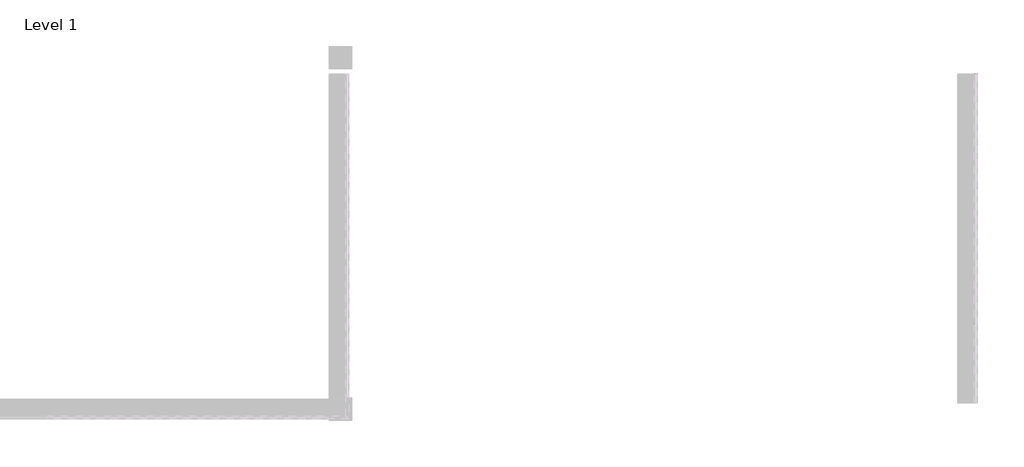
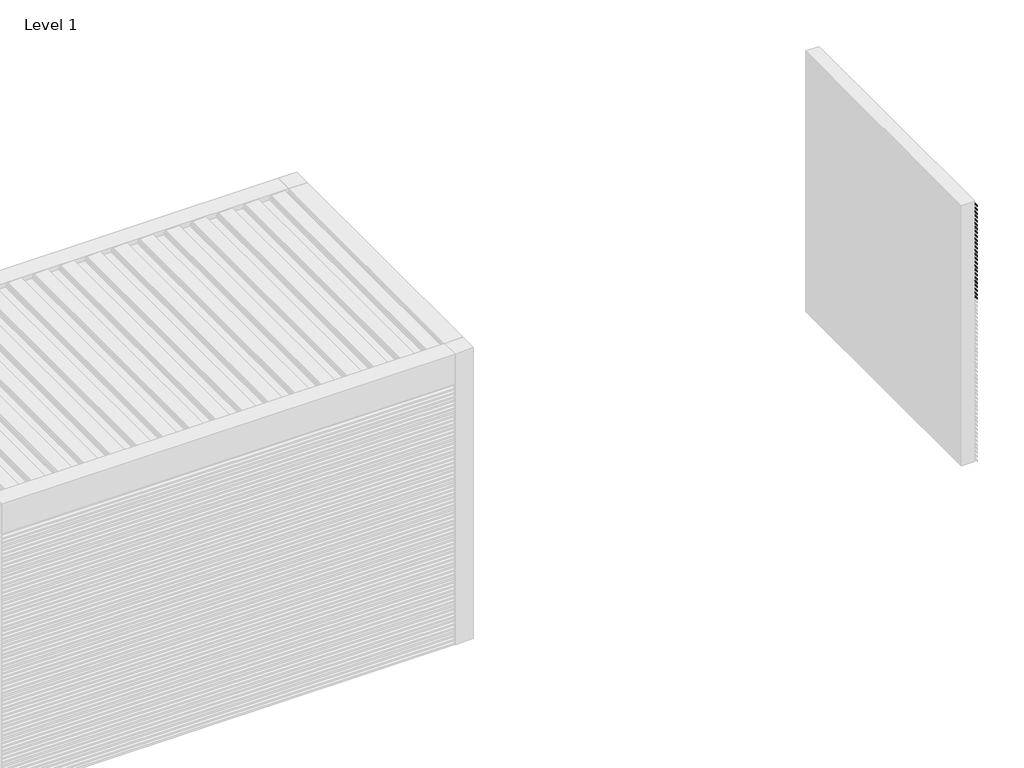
# One storey, part 60 of 69: 56 proxies.
"""IFC4 building model written with IfcOpenShell, lengths in millimetres."""

from ifc_helpers import new_model, si_unit, frame, origin, place, context, project, spatial, polyline, outline, extrude, faceted_brep, element, save

model = new_model("IFC4")

# Units and contexts
model_context = context("Model", 3, world=origin())
ifc_project = project(units=[si_unit("LENGTHUNIT", "METRE", prefix="MILLI")], contexts=[model_context])

# Site, building, storey
site = spatial("IfcSite", under=ifc_project)
building = spatial("IfcBuilding", under=site)
storey = spatial("IfcBuildingStorey", under=building, Name="Level 1", Elevation=0.0)

# Proxies
placement = place(None, origin())
element("IfcBuildingElementProxy", 1, Name="Wall Sweeps", at=placement, inside=storey, context=model_context, shape_type="SweptSolid", body=[
    extrude(outline(polyline([(2207.1, 215155.4900207), (2218.1562577, 215136.3400207), (2231.1, 215136.3400207), (2231.1, 215135.0900207), (2217.4345698, 215135.0900207), (2206.3782281, 215154.2400207), (2194.3216933, 215154.2400207), (2193.6, 215155.4900207), (2207.1, 215155.4900207)])), frame((0.0, 39638.6636399, 0.0), z_axis=(0.0, 1.0, 0.0), x_axis=(0.0, 0.0, 1.0)), (0.0, 0.0, 1.0), 2200.0),
])
element("IfcBuildingElementProxy", 2, Name="Wall Sweeps", at=placement, inside=storey, context=model_context, shape_type="SweptSolid", body=[
    extrude(outline(polyline([(2173.8, 215155.4900207), (2184.8562577, 215136.3400207), (2197.8, 215136.3400207), (2197.8, 215135.0900207), (2184.1345698, 215135.0900207), (2173.0782281, 215154.2400207), (2161.0216933, 215154.2400207), (2160.3, 215155.4900207), (2173.8, 215155.4900207)])), frame((0.0, 39638.6636399, 0.0), z_axis=(0.0, 1.0, 0.0), x_axis=(0.0, 0.0, 1.0)), (0.0, 0.0, 1.0), 2200.0),
])
element("IfcBuildingElementProxy", 3, Name="Wall Sweeps", at=placement, inside=storey, context=model_context, shape_type="SweptSolid", body=[
    extrude(outline(polyline([(2140.5, 215155.4900207), (2151.5562577, 215136.3400207), (2164.5, 215136.3400207), (2164.5, 215135.0900207), (2150.8345698, 215135.0900207), (2139.7782281, 215154.2400207), (2127.7216933, 215154.2400207), (2127.0, 215155.4900207), (2140.5, 215155.4900207)])), frame((0.0, 39638.6636399, 0.0), z_axis=(0.0, 1.0, 0.0), x_axis=(0.0, 0.0, 1.0)), (0.0, 0.0, 1.0), 2200.0),
])
element("IfcBuildingElementProxy", 4, Name="Wall Sweeps", at=placement, inside=storey, context=model_context, shape_type="SweptSolid", body=[
    extrude(outline(polyline([(2107.2, 215155.4900207), (2118.2562577, 215136.3400207), (2131.2, 215136.3400207), (2131.2, 215135.0900207), (2117.5345698, 215135.0900207), (2106.4782281, 215154.2400207), (2094.4216933, 215154.2400207), (2093.7, 215155.4900207), (2107.2, 215155.4900207)])), frame((0.0, 39638.6636399, 0.0), z_axis=(0.0, 1.0, 0.0), x_axis=(0.0, 0.0, 1.0)), (0.0, 0.0, 1.0), 2200.0),
])
element("IfcBuildingElementProxy", 5, Name="Wall Sweeps", at=placement, inside=storey, context=model_context, shape_type="SweptSolid", body=[
    extrude(outline(polyline([(2073.9, 215155.4900207), (2084.9562577, 215136.3400207), (2097.9, 215136.3400207), (2097.9, 215135.0900207), (2084.2345698, 215135.0900207), (2073.1782281, 215154.2400207), (2061.1216933, 215154.2400207), (2060.4, 215155.4900207), (2073.9, 215155.4900207)])), frame((0.0, 39638.6636399, 0.0), z_axis=(0.0, 1.0, 0.0), x_axis=(0.0, 0.0, 1.0)), (0.0, 0.0, 1.0), 2200.0),
])
element("IfcBuildingElementProxy", 6, Name="Wall Sweeps", at=placement, inside=storey, context=model_context, shape_type="SweptSolid", body=[
    extrude(outline(polyline([(2040.6, 215155.4900207), (2051.6562577, 215136.3400207), (2064.6, 215136.3400207), (2064.6, 215135.0900207), (2050.9345698, 215135.0900207), (2039.8782281, 215154.2400207), (2027.8216933, 215154.2400207), (2027.1, 215155.4900207), (2040.6, 215155.4900207)])), frame((0.0, 39638.6636399, 0.0), z_axis=(0.0, 1.0, 0.0), x_axis=(0.0, 0.0, 1.0)), (0.0, 0.0, 1.0), 2200.0),
])
element("IfcBuildingElementProxy", 7, Name="Wall Sweeps", at=placement, inside=storey, context=model_context, shape_type="SweptSolid", body=[
    extrude(outline(polyline([(2007.3, 215155.4900207), (2018.3562577, 215136.3400207), (2031.3, 215136.3400207), (2031.3, 215135.0900207), (2017.6345698, 215135.0900207), (2006.5782281, 215154.2400207), (1994.5216933, 215154.2400207), (1993.8, 215155.4900207), (2007.3, 215155.4900207)])), frame((0.0, 39638.6636399, 0.0), z_axis=(0.0, 1.0, 0.0), x_axis=(0.0, 0.0, 1.0)), (0.0, 0.0, 1.0), 2200.0),
])
element("IfcBuildingElementProxy", 8, Name="Wall Sweeps", at=placement, inside=storey, context=model_context, shape_type="SweptSolid", body=[
    extrude(outline(polyline([(1974.0, 215155.4900207), (1985.0562577, 215136.3400207), (1998.0, 215136.3400207), (1998.0, 215135.0900207), (1984.3345698, 215135.0900207), (1973.2782281, 215154.2400207), (1961.2216933, 215154.2400207), (1960.5, 215155.4900207), (1974.0, 215155.4900207)])), frame((0.0, 39638.6636399, 0.0), z_axis=(0.0, 1.0, 0.0), x_axis=(0.0, 0.0, 1.0)), (0.0, 0.0, 1.0), 2200.0),
])
element("IfcBuildingElementProxy", 9, Name="Wall Sweeps", at=placement, inside=storey, context=model_context, shape_type="SweptSolid", body=[
    extrude(outline(polyline([(1940.7, 215155.4900207), (1951.7562577, 215136.3400207), (1964.7, 215136.3400207), (1964.7, 215135.0900207), (1951.0345698, 215135.0900207), (1939.9782281, 215154.2400207), (1927.9216933, 215154.2400207), (1927.2, 215155.4900207), (1940.7, 215155.4900207)])), frame((0.0, 39638.6636399, 0.0), z_axis=(0.0, 1.0, 0.0), x_axis=(0.0, 0.0, 1.0)), (0.0, 0.0, 1.0), 2200.0),
])
element("IfcBuildingElementProxy", 10, Name="Wall Sweeps", at=placement, inside=storey, context=model_context, shape_type="SweptSolid", body=[
    extrude(outline(polyline([(1907.4, 215155.4900207), (1918.4562577, 215136.3400207), (1931.4, 215136.3400207), (1931.4, 215135.0900207), (1917.7345698, 215135.0900207), (1906.6782281, 215154.2400207), (1894.6216933, 215154.2400207), (1893.9, 215155.4900207), (1907.4, 215155.4900207)])), frame((0.0, 39638.6636399, 0.0), z_axis=(0.0, 1.0, 0.0), x_axis=(0.0, 0.0, 1.0)), (0.0, 0.0, 1.0), 2200.0),
])
element("IfcBuildingElementProxy", 11, Name="Wall Sweeps", at=placement, inside=storey, context=model_context, shape_type="SweptSolid", body=[
    extrude(outline(polyline([(1874.1, 215155.4900207), (1885.1562577, 215136.3400207), (1898.1, 215136.3400207), (1898.1, 215135.0900207), (1884.4345698, 215135.0900207), (1873.3782281, 215154.2400207), (1861.3216933, 215154.2400207), (1860.6, 215155.4900207), (1874.1, 215155.4900207)])), frame((0.0, 39638.6636399, 0.0), z_axis=(0.0, 1.0, 0.0), x_axis=(0.0, 0.0, 1.0)), (0.0, 0.0, 1.0), 2200.0),
])
element("IfcBuildingElementProxy", 12, Name="Wall Sweeps", at=placement, inside=storey, context=model_context, shape_type="SweptSolid", body=[
    extrude(outline(polyline([(1840.8, 215155.4900207), (1851.8562577, 215136.3400207), (1864.8, 215136.3400207), (1864.8, 215135.0900207), (1851.1345698, 215135.0900207), (1840.0782281, 215154.2400207), (1828.0216933, 215154.2400207), (1827.3, 215155.4900207), (1840.8, 215155.4900207)])), frame((0.0, 39638.6636399, 0.0), z_axis=(0.0, 1.0, 0.0), x_axis=(0.0, 0.0, 1.0)), (0.0, 0.0, 1.0), 2200.0),
])
element("IfcBuildingElementProxy", 13, Name="Wall Sweeps", at=placement, inside=storey, context=model_context, shape_type="SweptSolid", body=[
    extrude(outline(polyline([(1807.5, 215155.4900207), (1818.5562577, 215136.3400207), (1831.5, 215136.3400207), (1831.5, 215135.0900207), (1817.8345698, 215135.0900207), (1806.7782281, 215154.2400207), (1794.7216933, 215154.2400207), (1794.0, 215155.4900207), (1807.5, 215155.4900207)])), frame((0.0, 39638.6636399, 0.0), z_axis=(0.0, 1.0, 0.0), x_axis=(0.0, 0.0, 1.0)), (0.0, 0.0, 1.0), 2200.0),
])
element("IfcBuildingElementProxy", 14, Name="Wall Sweeps", at=placement, inside=storey, context=model_context, shape_type="SweptSolid", body=[
    extrude(outline(polyline([(1774.2, 215155.4900207), (1785.2562577, 215136.3400207), (1798.2, 215136.3400207), (1798.2, 215135.0900207), (1784.5345698, 215135.0900207), (1773.4782281, 215154.2400207), (1761.4216933, 215154.2400207), (1760.7, 215155.4900207), (1774.2, 215155.4900207)])), frame((0.0, 39638.6636399, 0.0), z_axis=(0.0, 1.0, 0.0), x_axis=(0.0, 0.0, 1.0)), (0.0, 0.0, 1.0), 2200.0),
])
element("IfcBuildingElementProxy", 15, Name="Wall Sweeps", at=placement, inside=storey, context=model_context, shape_type="SweptSolid", body=[
    extrude(outline(polyline([(1740.9, 215155.4900207), (1751.9562577, 215136.3400207), (1764.9, 215136.3400207), (1764.9, 215135.0900207), (1751.2345698, 215135.0900207), (1740.1782281, 215154.2400207), (1728.1216933, 215154.2400207), (1727.4, 215155.4900207), (1740.9, 215155.4900207)])), frame((0.0, 39638.6636399, 0.0), z_axis=(0.0, 1.0, 0.0), x_axis=(0.0, 0.0, 1.0)), (0.0, 0.0, 1.0), 2200.0),
])
element("IfcBuildingElementProxy", 16, Name="Wall Sweeps", at=placement, inside=storey, context=model_context, shape_type="SweptSolid", body=[
    extrude(outline(polyline([(1707.6, 215155.4900207), (1718.6562577, 215136.3400207), (1731.6, 215136.3400207), (1731.6, 215135.0900207), (1717.9345698, 215135.0900207), (1706.8782281, 215154.2400207), (1694.8216933, 215154.2400207), (1694.1, 215155.4900207), (1707.6, 215155.4900207)])), frame((0.0, 39638.6636399, 0.0), z_axis=(0.0, 1.0, 0.0), x_axis=(0.0, 0.0, 1.0)), (0.0, 0.0, 1.0), 2200.0),
])
element("IfcBuildingElementProxy", 17, Name="Wall Sweeps", at=placement, inside=storey, context=model_context, shape_type="SweptSolid", body=[
    extrude(outline(polyline([(1674.3, 215155.4900207), (1685.3562577, 215136.3400207), (1698.3, 215136.3400207), (1698.3, 215135.0900207), (1684.6345698, 215135.0900207), (1673.5782281, 215154.2400207), (1661.5216933, 215154.2400207), (1660.8, 215155.4900207), (1674.3, 215155.4900207)])), frame((0.0, 39638.6636399, 0.0), z_axis=(0.0, 1.0, 0.0), x_axis=(0.0, 0.0, 1.0)), (0.0, 0.0, 1.0), 2200.0),
])
element("IfcBuildingElementProxy", 18, Name="Wall Sweeps", at=placement, inside=storey, context=model_context, shape_type="SweptSolid", body=[
    extrude(outline(polyline([(1641.0, 215155.4900207), (1652.0562577, 215136.3400207), (1665.0, 215136.3400207), (1665.0, 215135.0900207), (1651.3345698, 215135.0900207), (1640.2782281, 215154.2400207), (1628.2216933, 215154.2400207), (1627.5, 215155.4900207), (1641.0, 215155.4900207)])), frame((0.0, 39638.6636399, 0.0), z_axis=(0.0, 1.0, 0.0), x_axis=(0.0, 0.0, 1.0)), (0.0, 0.0, 1.0), 2200.0),
])
element("IfcBuildingElementProxy", 19, Name="Wall Sweeps", at=placement, inside=storey, context=model_context, shape_type="SweptSolid", body=[
    extrude(outline(polyline([(1607.7, 215155.4900207), (1618.7562577, 215136.3400207), (1631.7, 215136.3400207), (1631.7, 215135.0900207), (1618.0345698, 215135.0900207), (1606.9782281, 215154.2400207), (1594.9216933, 215154.2400207), (1594.2, 215155.4900207), (1607.7, 215155.4900207)])), frame((0.0, 39638.6636399, 0.0), z_axis=(0.0, 1.0, 0.0), x_axis=(0.0, 0.0, 1.0)), (0.0, 0.0, 1.0), 2200.0),
])
element("IfcBuildingElementProxy", 20, Name="Wall Sweeps", at=placement, inside=storey, context=model_context, shape_type="SweptSolid", body=[
    extrude(outline(polyline([(1574.4, 215155.4900207), (1585.4562577, 215136.3400207), (1598.4, 215136.3400207), (1598.4, 215135.0900207), (1584.7345698, 215135.0900207), (1573.6782281, 215154.2400207), (1561.6216933, 215154.2400207), (1560.9, 215155.4900207), (1574.4, 215155.4900207)])), frame((0.0, 39638.6636399, 0.0), z_axis=(0.0, 1.0, 0.0), x_axis=(0.0, 0.0, 1.0)), (0.0, 0.0, 1.0), 2200.0),
])
element("IfcBuildingElementProxy", 21, Name="Wall Sweeps", at=placement, inside=storey, context=model_context, shape_type="SweptSolid", body=[
    extrude(outline(polyline([(1541.1, 215155.4900207), (1552.1562577, 215136.3400207), (1565.1, 215136.3400207), (1565.1, 215135.0900207), (1551.4345698, 215135.0900207), (1540.3782281, 215154.2400207), (1528.3216933, 215154.2400207), (1527.6, 215155.4900207), (1541.1, 215155.4900207)])), frame((0.0, 39638.6636399, 0.0), z_axis=(0.0, 1.0, 0.0), x_axis=(0.0, 0.0, 1.0)), (0.0, 0.0, 1.0), 2200.0),
])
element("IfcBuildingElementProxy", 22, Name="Wall Sweeps", at=placement, inside=storey, context=model_context, shape_type="SweptSolid", body=[
    extrude(outline(polyline([(1507.8, 215155.4900207), (1518.8562577, 215136.3400207), (1531.8, 215136.3400207), (1531.8, 215135.0900207), (1518.1345698, 215135.0900207), (1507.0782281, 215154.2400207), (1495.0216933, 215154.2400207), (1494.3, 215155.4900207), (1507.8, 215155.4900207)])), frame((0.0, 39638.6636399, 0.0), z_axis=(0.0, 1.0, 0.0), x_axis=(0.0, 0.0, 1.0)), (0.0, 0.0, 1.0), 2200.0),
])
element("IfcBuildingElementProxy", 23, Name="Wall Sweeps", at=placement, inside=storey, context=model_context, shape_type="SweptSolid", body=[
    extrude(outline(polyline([(1474.5, 215155.4900207), (1485.5562577, 215136.3400207), (1498.5, 215136.3400207), (1498.5, 215135.0900207), (1484.8345698, 215135.0900207), (1473.7782281, 215154.2400207), (1461.7216933, 215154.2400207), (1461.0, 215155.4900207), (1474.5, 215155.4900207)])), frame((0.0, 39638.6636399, 0.0), z_axis=(0.0, 1.0, 0.0), x_axis=(0.0, 0.0, 1.0)), (0.0, 0.0, 1.0), 2200.0),
])
element("IfcBuildingElementProxy", 24, Name="Wall Sweeps", at=placement, inside=storey, context=model_context, shape_type="SweptSolid", body=[
    extrude(outline(polyline([(1441.2, 215155.4900207), (1452.2562577, 215136.3400207), (1465.2, 215136.3400207), (1465.2, 215135.0900207), (1451.5345698, 215135.0900207), (1440.4782281, 215154.2400207), (1428.4216933, 215154.2400207), (1427.7, 215155.4900207), (1441.2, 215155.4900207)])), frame((0.0, 39638.6636399, 0.0), z_axis=(0.0, 1.0, 0.0), x_axis=(0.0, 0.0, 1.0)), (0.0, 0.0, 1.0), 2200.0),
])
element("IfcBuildingElementProxy", 25, Name="Wall Sweeps", at=placement, inside=storey, context=model_context, shape_type="SweptSolid", body=[
    extrude(outline(polyline([(1407.9, 215155.4900207), (1418.9562577, 215136.3400207), (1431.9, 215136.3400207), (1431.9, 215135.0900207), (1418.2345698, 215135.0900207), (1407.1782281, 215154.2400207), (1395.1216933, 215154.2400207), (1394.4, 215155.4900207), (1407.9, 215155.4900207)])), frame((0.0, 39638.6636399, 0.0), z_axis=(0.0, 1.0, 0.0), x_axis=(0.0, 0.0, 1.0)), (0.0, 0.0, 1.0), 2200.0),
])
element("IfcBuildingElementProxy", 26, Name="Wall Sweeps", at=placement, inside=storey, context=model_context, shape_type="Brep", body=[
    faceted_brep([(210955.4900207, 41838.6636399, 1008.3), (210955.4900207, 41838.6636399, 994.8), (210954.2400207, 41838.6636399, 995.5216933), (210954.2400207, 41838.6636399, 1007.5782281), (210935.0900207, 41838.6636399, 1018.6345698), (210935.0900207, 41838.6636399, 1032.3), (210936.3400207, 41838.6636399, 1032.3), (210936.3400207, 41838.6636399, 1019.3562577), (210955.4900207, 39530.7593685, 1008.3), (210936.3400207, 39549.9093685, 1019.3562577), (210936.3400207, 39549.9093685, 1032.3), (210935.0900207, 39551.1593685, 1032.3), (210935.0900207, 39551.1593685, 1018.6345698), (210954.2400207, 39532.0093685, 1007.5782281), (210954.2400207, 39532.0093685, 995.5216933), (210955.4900207, 39530.7593685, 994.8)], [[[0, 1, 2, 3, 4, 5, 6, 7]], [[8, 9, 10, 11, 12, 13, 14, 15]], [[0, 7, 9, 8]], [[7, 6, 10, 9]], [[6, 5, 11, 10]], [[5, 4, 12, 11]], [[4, 3, 13, 12]], [[3, 2, 14, 13]], [[2, 1, 15, 14]], [[1, 0, 8, 15]]]),
])
element("IfcBuildingElementProxy", 27, Name="Wall Sweeps", at=placement, inside=storey, context=model_context, shape_type="Brep", body=[
    faceted_brep([(210955.4900207, 41838.6636399, 975.0), (210955.4900207, 41838.6636399, 961.5), (210954.2400207, 41838.6636399, 962.2216933), (210954.2400207, 41838.6636399, 974.2782281), (210935.0900207, 41838.6636399, 985.3345698), (210935.0900207, 41838.6636399, 999.0), (210936.3400207, 41838.6636399, 999.0), (210936.3400207, 41838.6636399, 986.0562577), (210955.4900207, 39530.7593685, 975.0), (210936.3400207, 39549.9093685, 986.0562577), (210936.3400207, 39549.9093685, 999.0), (210935.0900207, 39551.1593685, 999.0), (210935.0900207, 39551.1593685, 985.3345698), (210954.2400207, 39532.0093685, 974.2782281), (210954.2400207, 39532.0093685, 962.2216933), (210955.4900207, 39530.7593685, 961.5)], [[[0, 1, 2, 3, 4, 5, 6, 7]], [[8, 9, 10, 11, 12, 13, 14, 15]], [[0, 7, 9, 8]], [[7, 6, 10, 9]], [[6, 5, 11, 10]], [[5, 4, 12, 11]], [[4, 3, 13, 12]], [[3, 2, 14, 13]], [[2, 1, 15, 14]], [[1, 0, 8, 15]]]),
])
element("IfcBuildingElementProxy", 28, Name="Wall Sweeps", at=placement, inside=storey, context=model_context, shape_type="Brep", body=[
    faceted_brep([(210955.4900207, 41838.6636399, 941.7), (210955.4900207, 41838.6636399, 928.2), (210954.2400207, 41838.6636399, 928.9216933), (210954.2400207, 41838.6636399, 940.9782281), (210935.0900207, 41838.6636399, 952.0345698), (210935.0900207, 41838.6636399, 965.7), (210936.3400207, 41838.6636399, 965.7), (210936.3400207, 41838.6636399, 952.7562577), (210955.4900207, 39530.7593685, 941.7), (210936.3400207, 39549.9093685, 952.7562577), (210936.3400207, 39549.9093685, 965.7), (210935.0900207, 39551.1593685, 965.7), (210935.0900207, 39551.1593685, 952.0345698), (210954.2400207, 39532.0093685, 940.9782281), (210954.2400207, 39532.0093685, 928.9216933), (210955.4900207, 39530.7593685, 928.2)], [[[0, 1, 2, 3, 4, 5, 6, 7]], [[8, 9, 10, 11, 12, 13, 14, 15]], [[0, 7, 9, 8]], [[7, 6, 10, 9]], [[6, 5, 11, 10]], [[5, 4, 12, 11]], [[4, 3, 13, 12]], [[3, 2, 14, 13]], [[2, 1, 15, 14]], [[1, 0, 8, 15]]]),
])
element("IfcBuildingElementProxy", 29, Name="Wall Sweeps", at=placement, inside=storey, context=model_context, shape_type="Brep", body=[
    faceted_brep([(210955.4900207, 41838.6636399, 908.4), (210955.4900207, 41838.6636399, 894.9), (210954.2400207, 41838.6636399, 895.6216933), (210954.2400207, 41838.6636399, 907.6782281), (210935.0900207, 41838.6636399, 918.7345698), (210935.0900207, 41838.6636399, 932.4), (210936.3400207, 41838.6636399, 932.4), (210936.3400207, 41838.6636399, 919.4562577), (210955.4900207, 39530.7593685, 908.4), (210936.3400207, 39549.9093685, 919.4562577), (210936.3400207, 39549.9093685, 932.4), (210935.0900207, 39551.1593685, 932.4), (210935.0900207, 39551.1593685, 918.7345698), (210954.2400207, 39532.0093685, 907.6782281), (210954.2400207, 39532.0093685, 895.6216933), (210955.4900207, 39530.7593685, 894.9)], [[[0, 1, 2, 3, 4, 5, 6, 7]], [[8, 9, 10, 11, 12, 13, 14, 15]], [[0, 7, 9, 8]], [[7, 6, 10, 9]], [[6, 5, 11, 10]], [[5, 4, 12, 11]], [[4, 3, 13, 12]], [[3, 2, 14, 13]], [[2, 1, 15, 14]], [[1, 0, 8, 15]]]),
])
element("IfcBuildingElementProxy", 30, Name="Wall Sweeps", at=placement, inside=storey, context=model_context, shape_type="Brep", body=[
    faceted_brep([(210955.4900207, 41838.6636399, 875.1), (210955.4900207, 41838.6636399, 861.6), (210954.2400207, 41838.6636399, 862.3216933), (210954.2400207, 41838.6636399, 874.3782281), (210935.0900207, 41838.6636399, 885.4345698), (210935.0900207, 41838.6636399, 899.1), (210936.3400207, 41838.6636399, 899.1), (210936.3400207, 41838.6636399, 886.1562577), (210955.4900207, 39530.7593685, 875.1), (210936.3400207, 39549.9093685, 886.1562577), (210936.3400207, 39549.9093685, 899.1), (210935.0900207, 39551.1593685, 899.1), (210935.0900207, 39551.1593685, 885.4345698), (210954.2400207, 39532.0093685, 874.3782281), (210954.2400207, 39532.0093685, 862.3216933), (210955.4900207, 39530.7593685, 861.6)], [[[0, 1, 2, 3, 4, 5, 6, 7]], [[8, 9, 10, 11, 12, 13, 14, 15]], [[0, 7, 9, 8]], [[7, 6, 10, 9]], [[6, 5, 11, 10]], [[5, 4, 12, 11]], [[4, 3, 13, 12]], [[3, 2, 14, 13]], [[2, 1, 15, 14]], [[1, 0, 8, 15]]]),
])
element("IfcBuildingElementProxy", 31, Name="Wall Sweeps", at=placement, inside=storey, context=model_context, shape_type="Brep", body=[
    faceted_brep([(210955.4900207, 41838.6636399, 841.8), (210955.4900207, 41838.6636399, 828.3), (210954.2400207, 41838.6636399, 829.0216933), (210954.2400207, 41838.6636399, 841.0782281), (210935.0900207, 41838.6636399, 852.1345698), (210935.0900207, 41838.6636399, 865.8), (210936.3400207, 41838.6636399, 865.8), (210936.3400207, 41838.6636399, 852.8562577), (210955.4900207, 39530.7593685, 841.8), (210936.3400207, 39549.9093685, 852.8562577), (210936.3400207, 39549.9093685, 865.8), (210935.0900207, 39551.1593685, 865.8), (210935.0900207, 39551.1593685, 852.1345698), (210954.2400207, 39532.0093685, 841.0782281), (210954.2400207, 39532.0093685, 829.0216933), (210955.4900207, 39530.7593685, 828.3)], [[[0, 1, 2, 3, 4, 5, 6, 7]], [[8, 9, 10, 11, 12, 13, 14, 15]], [[0, 7, 9, 8]], [[7, 6, 10, 9]], [[6, 5, 11, 10]], [[5, 4, 12, 11]], [[4, 3, 13, 12]], [[3, 2, 14, 13]], [[2, 1, 15, 14]], [[1, 0, 8, 15]]]),
])
element("IfcBuildingElementProxy", 32, Name="Wall Sweeps", at=placement, inside=storey, context=model_context, shape_type="Brep", body=[
    faceted_brep([(210955.4900207, 41838.6636399, 808.5), (210955.4900207, 41838.6636399, 795.0), (210954.2400207, 41838.6636399, 795.7216933), (210954.2400207, 41838.6636399, 807.7782281), (210935.0900207, 41838.6636399, 818.8345698), (210935.0900207, 41838.6636399, 832.5), (210936.3400207, 41838.6636399, 832.5), (210936.3400207, 41838.6636399, 819.5562577), (210955.4900207, 39530.7593685, 808.5), (210936.3400207, 39549.9093685, 819.5562577), (210936.3400207, 39549.9093685, 832.5), (210935.0900207, 39551.1593685, 832.5), (210935.0900207, 39551.1593685, 818.8345698), (210954.2400207, 39532.0093685, 807.7782281), (210954.2400207, 39532.0093685, 795.7216933), (210955.4900207, 39530.7593685, 795.0)], [[[0, 1, 2, 3, 4, 5, 6, 7]], [[8, 9, 10, 11, 12, 13, 14, 15]], [[0, 7, 9, 8]], [[7, 6, 10, 9]], [[6, 5, 11, 10]], [[5, 4, 12, 11]], [[4, 3, 13, 12]], [[3, 2, 14, 13]], [[2, 1, 15, 14]], [[1, 0, 8, 15]]]),
])
element("IfcBuildingElementProxy", 33, Name="Wall Sweeps", at=placement, inside=storey, context=model_context, shape_type="Brep", body=[
    faceted_brep([(210955.4900207, 41838.6636399, 775.2), (210955.4900207, 41838.6636399, 761.7), (210954.2400207, 41838.6636399, 762.4216933), (210954.2400207, 41838.6636399, 774.4782281), (210935.0900207, 41838.6636399, 785.5345698), (210935.0900207, 41838.6636399, 799.2), (210936.3400207, 41838.6636399, 799.2), (210936.3400207, 41838.6636399, 786.2562577), (210955.4900207, 39530.7593685, 775.2), (210936.3400207, 39549.9093685, 786.2562577), (210936.3400207, 39549.9093685, 799.2), (210935.0900207, 39551.1593685, 799.2), (210935.0900207, 39551.1593685, 785.5345698), (210954.2400207, 39532.0093685, 774.4782281), (210954.2400207, 39532.0093685, 762.4216933), (210955.4900207, 39530.7593685, 761.7)], [[[0, 1, 2, 3, 4, 5, 6, 7]], [[8, 9, 10, 11, 12, 13, 14, 15]], [[0, 7, 9, 8]], [[7, 6, 10, 9]], [[6, 5, 11, 10]], [[5, 4, 12, 11]], [[4, 3, 13, 12]], [[3, 2, 14, 13]], [[2, 1, 15, 14]], [[1, 0, 8, 15]]]),
])
element("IfcBuildingElementProxy", 34, Name="Wall Sweeps", at=placement, inside=storey, context=model_context, shape_type="Brep", body=[
    faceted_brep([(210955.4900207, 41838.6636399, 741.9), (210955.4900207, 41838.6636399, 728.4), (210954.2400207, 41838.6636399, 729.1216933), (210954.2400207, 41838.6636399, 741.1782281), (210935.0900207, 41838.6636399, 752.2345698), (210935.0900207, 41838.6636399, 765.9), (210936.3400207, 41838.6636399, 765.9), (210936.3400207, 41838.6636399, 752.9562577), (210955.4900207, 39530.7593685, 741.9), (210936.3400207, 39549.9093685, 752.9562577), (210936.3400207, 39549.9093685, 765.9), (210935.0900207, 39551.1593685, 765.9), (210935.0900207, 39551.1593685, 752.2345698), (210954.2400207, 39532.0093685, 741.1782281), (210954.2400207, 39532.0093685, 729.1216933), (210955.4900207, 39530.7593685, 728.4)], [[[0, 1, 2, 3, 4, 5, 6, 7]], [[8, 9, 10, 11, 12, 13, 14, 15]], [[0, 7, 9, 8]], [[7, 6, 10, 9]], [[6, 5, 11, 10]], [[5, 4, 12, 11]], [[4, 3, 13, 12]], [[3, 2, 14, 13]], [[2, 1, 15, 14]], [[1, 0, 8, 15]]]),
])
element("IfcBuildingElementProxy", 35, Name="Wall Sweeps", at=placement, inside=storey, context=model_context, shape_type="Brep", body=[
    faceted_brep([(210955.4900207, 41838.6636399, 708.6), (210955.4900207, 41838.6636399, 695.1), (210954.2400207, 41838.6636399, 695.8216933), (210954.2400207, 41838.6636399, 707.8782281), (210935.0900207, 41838.6636399, 718.9345698), (210935.0900207, 41838.6636399, 732.6), (210936.3400207, 41838.6636399, 732.6), (210936.3400207, 41838.6636399, 719.6562577), (210955.4900207, 39530.7593685, 708.6), (210936.3400207, 39549.9093685, 719.6562577), (210936.3400207, 39549.9093685, 732.6), (210935.0900207, 39551.1593685, 732.6), (210935.0900207, 39551.1593685, 718.9345698), (210954.2400207, 39532.0093685, 707.8782281), (210954.2400207, 39532.0093685, 695.8216933), (210955.4900207, 39530.7593685, 695.1)], [[[0, 1, 2, 3, 4, 5, 6, 7]], [[8, 9, 10, 11, 12, 13, 14, 15]], [[0, 7, 9, 8]], [[7, 6, 10, 9]], [[6, 5, 11, 10]], [[5, 4, 12, 11]], [[4, 3, 13, 12]], [[3, 2, 14, 13]], [[2, 1, 15, 14]], [[1, 0, 8, 15]]]),
])
element("IfcBuildingElementProxy", 36, Name="Wall Sweeps", at=placement, inside=storey, context=model_context, shape_type="Brep", body=[
    faceted_brep([(210955.4900207, 41838.6636399, 675.3), (210955.4900207, 41838.6636399, 661.8), (210954.2400207, 41838.6636399, 662.5216933), (210954.2400207, 41838.6636399, 674.5782281), (210935.0900207, 41838.6636399, 685.6345698), (210935.0900207, 41838.6636399, 699.3), (210936.3400207, 41838.6636399, 699.3), (210936.3400207, 41838.6636399, 686.3562577), (210955.4900207, 39530.7593685, 675.3), (210936.3400207, 39549.9093685, 686.3562577), (210936.3400207, 39549.9093685, 699.3), (210935.0900207, 39551.1593685, 699.3), (210935.0900207, 39551.1593685, 685.6345698), (210954.2400207, 39532.0093685, 674.5782281), (210954.2400207, 39532.0093685, 662.5216933), (210955.4900207, 39530.7593685, 661.8)], [[[0, 1, 2, 3, 4, 5, 6, 7]], [[8, 9, 10, 11, 12, 13, 14, 15]], [[0, 7, 9, 8]], [[7, 6, 10, 9]], [[6, 5, 11, 10]], [[5, 4, 12, 11]], [[4, 3, 13, 12]], [[3, 2, 14, 13]], [[2, 1, 15, 14]], [[1, 0, 8, 15]]]),
])
element("IfcBuildingElementProxy", 37, Name="Wall Sweeps", at=placement, inside=storey, context=model_context, shape_type="Brep", body=[
    faceted_brep([(210955.4900207, 41838.6636399, 642.0), (210955.4900207, 41838.6636399, 628.5), (210954.2400207, 41838.6636399, 629.2216933), (210954.2400207, 41838.6636399, 641.2782281), (210935.0900207, 41838.6636399, 652.3345698), (210935.0900207, 41838.6636399, 666.0), (210936.3400207, 41838.6636399, 666.0), (210936.3400207, 41838.6636399, 653.0562577), (210955.4900207, 39530.7593685, 642.0), (210936.3400207, 39549.9093685, 653.0562577), (210936.3400207, 39549.9093685, 666.0), (210935.0900207, 39551.1593685, 666.0), (210935.0900207, 39551.1593685, 652.3345698), (210954.2400207, 39532.0093685, 641.2782281), (210954.2400207, 39532.0093685, 629.2216933), (210955.4900207, 39530.7593685, 628.5)], [[[0, 1, 2, 3, 4, 5, 6, 7]], [[8, 9, 10, 11, 12, 13, 14, 15]], [[0, 7, 9, 8]], [[7, 6, 10, 9]], [[6, 5, 11, 10]], [[5, 4, 12, 11]], [[4, 3, 13, 12]], [[3, 2, 14, 13]], [[2, 1, 15, 14]], [[1, 0, 8, 15]]]),
])
element("IfcBuildingElementProxy", 38, Name="Wall Sweeps", at=placement, inside=storey, context=model_context, shape_type="Brep", body=[
    faceted_brep([(210955.4900207, 41838.6636399, 608.7), (210955.4900207, 41838.6636399, 595.2), (210954.2400207, 41838.6636399, 595.9216933), (210954.2400207, 41838.6636399, 607.9782281), (210935.0900207, 41838.6636399, 619.0345698), (210935.0900207, 41838.6636399, 632.7), (210936.3400207, 41838.6636399, 632.7), (210936.3400207, 41838.6636399, 619.7562577), (210955.4900207, 39530.7593685, 608.7), (210936.3400207, 39549.9093685, 619.7562577), (210936.3400207, 39549.9093685, 632.7), (210935.0900207, 39551.1593685, 632.7), (210935.0900207, 39551.1593685, 619.0345698), (210954.2400207, 39532.0093685, 607.9782281), (210954.2400207, 39532.0093685, 595.9216933), (210955.4900207, 39530.7593685, 595.2)], [[[0, 1, 2, 3, 4, 5, 6, 7]], [[8, 9, 10, 11, 12, 13, 14, 15]], [[0, 7, 9, 8]], [[7, 6, 10, 9]], [[6, 5, 11, 10]], [[5, 4, 12, 11]], [[4, 3, 13, 12]], [[3, 2, 14, 13]], [[2, 1, 15, 14]], [[1, 0, 8, 15]]]),
])
element("IfcBuildingElementProxy", 39, Name="Wall Sweeps", at=placement, inside=storey, context=model_context, shape_type="Brep", body=[
    faceted_brep([(210955.4900207, 41838.6636399, 575.4), (210955.4900207, 41838.6636399, 561.9), (210954.2400207, 41838.6636399, 562.6216933), (210954.2400207, 41838.6636399, 574.6782281), (210935.0900207, 41838.6636399, 585.7345698), (210935.0900207, 41838.6636399, 599.4), (210936.3400207, 41838.6636399, 599.4), (210936.3400207, 41838.6636399, 586.4562577), (210955.4900207, 39530.7593685, 575.4), (210936.3400207, 39549.9093685, 586.4562577), (210936.3400207, 39549.9093685, 599.4), (210935.0900207, 39551.1593685, 599.4), (210935.0900207, 39551.1593685, 585.7345698), (210954.2400207, 39532.0093685, 574.6782281), (210954.2400207, 39532.0093685, 562.6216933), (210955.4900207, 39530.7593685, 561.9)], [[[0, 1, 2, 3, 4, 5, 6, 7]], [[8, 9, 10, 11, 12, 13, 14, 15]], [[0, 7, 9, 8]], [[7, 6, 10, 9]], [[6, 5, 11, 10]], [[5, 4, 12, 11]], [[4, 3, 13, 12]], [[3, 2, 14, 13]], [[2, 1, 15, 14]], [[1, 0, 8, 15]]]),
])
element("IfcBuildingElementProxy", 40, Name="Wall Sweeps", at=placement, inside=storey, context=model_context, shape_type="Brep", body=[
    faceted_brep([(210955.4900207, 41838.6636399, 542.1), (210955.4900207, 41838.6636399, 528.6), (210954.2400207, 41838.6636399, 529.3216933), (210954.2400207, 41838.6636399, 541.3782281), (210935.0900207, 41838.6636399, 552.4345698), (210935.0900207, 41838.6636399, 566.1), (210936.3400207, 41838.6636399, 566.1), (210936.3400207, 41838.6636399, 553.1562577), (210955.4900207, 39530.7593685, 542.1), (210936.3400207, 39549.9093685, 553.1562577), (210936.3400207, 39549.9093685, 566.1), (210935.0900207, 39551.1593685, 566.1), (210935.0900207, 39551.1593685, 552.4345698), (210954.2400207, 39532.0093685, 541.3782281), (210954.2400207, 39532.0093685, 529.3216933), (210955.4900207, 39530.7593685, 528.6)], [[[0, 1, 2, 3, 4, 5, 6, 7]], [[8, 9, 10, 11, 12, 13, 14, 15]], [[0, 7, 9, 8]], [[7, 6, 10, 9]], [[6, 5, 11, 10]], [[5, 4, 12, 11]], [[4, 3, 13, 12]], [[3, 2, 14, 13]], [[2, 1, 15, 14]], [[1, 0, 8, 15]]]),
])
element("IfcBuildingElementProxy", 41, Name="Wall Sweeps", at=placement, inside=storey, context=model_context, shape_type="Brep", body=[
    faceted_brep([(210955.4900207, 41838.6636399, 508.8), (210955.4900207, 41838.6636399, 495.3), (210954.2400207, 41838.6636399, 496.0216933), (210954.2400207, 41838.6636399, 508.0782281), (210935.0900207, 41838.6636399, 519.1345698), (210935.0900207, 41838.6636399, 532.8), (210936.3400207, 41838.6636399, 532.8), (210936.3400207, 41838.6636399, 519.8562577), (210955.4900207, 39530.7593685, 508.8), (210936.3400207, 39549.9093685, 519.8562577), (210936.3400207, 39549.9093685, 532.8), (210935.0900207, 39551.1593685, 532.8), (210935.0900207, 39551.1593685, 519.1345698), (210954.2400207, 39532.0093685, 508.0782281), (210954.2400207, 39532.0093685, 496.0216933), (210955.4900207, 39530.7593685, 495.3)], [[[0, 1, 2, 3, 4, 5, 6, 7]], [[8, 9, 10, 11, 12, 13, 14, 15]], [[0, 7, 9, 8]], [[7, 6, 10, 9]], [[6, 5, 11, 10]], [[5, 4, 12, 11]], [[4, 3, 13, 12]], [[3, 2, 14, 13]], [[2, 1, 15, 14]], [[1, 0, 8, 15]]]),
])
element("IfcBuildingElementProxy", 42, Name="Wall Sweeps", at=placement, inside=storey, context=model_context, shape_type="Brep", body=[
    faceted_brep([(210955.4900207, 41838.6636399, 475.5), (210955.4900207, 41838.6636399, 462.0), (210954.2400207, 41838.6636399, 462.7216933), (210954.2400207, 41838.6636399, 474.7782281), (210935.0900207, 41838.6636399, 485.8345698), (210935.0900207, 41838.6636399, 499.5), (210936.3400207, 41838.6636399, 499.5), (210936.3400207, 41838.6636399, 486.5562577), (210955.4900207, 39530.7593685, 475.5), (210936.3400207, 39549.9093685, 486.5562577), (210936.3400207, 39549.9093685, 499.5), (210935.0900207, 39551.1593685, 499.5), (210935.0900207, 39551.1593685, 485.8345698), (210954.2400207, 39532.0093685, 474.7782281), (210954.2400207, 39532.0093685, 462.7216933), (210955.4900207, 39530.7593685, 462.0)], [[[0, 1, 2, 3, 4, 5, 6, 7]], [[8, 9, 10, 11, 12, 13, 14, 15]], [[0, 7, 9, 8]], [[7, 6, 10, 9]], [[6, 5, 11, 10]], [[5, 4, 12, 11]], [[4, 3, 13, 12]], [[3, 2, 14, 13]], [[2, 1, 15, 14]], [[1, 0, 8, 15]]]),
])
element("IfcBuildingElementProxy", 43, Name="Wall Sweeps", at=placement, inside=storey, context=model_context, shape_type="Brep", body=[
    faceted_brep([(210955.4900207, 41838.6636399, 442.2), (210955.4900207, 41838.6636399, 428.7), (210954.2400207, 41838.6636399, 429.4216933), (210954.2400207, 41838.6636399, 441.4782281), (210935.0900207, 41838.6636399, 452.5345698), (210935.0900207, 41838.6636399, 466.2), (210936.3400207, 41838.6636399, 466.2), (210936.3400207, 41838.6636399, 453.2562577), (210955.4900207, 39530.7593685, 442.2), (210936.3400207, 39549.9093685, 453.2562577), (210936.3400207, 39549.9093685, 466.2), (210935.0900207, 39551.1593685, 466.2), (210935.0900207, 39551.1593685, 452.5345698), (210954.2400207, 39532.0093685, 441.4782281), (210954.2400207, 39532.0093685, 429.4216933), (210955.4900207, 39530.7593685, 428.7)], [[[0, 1, 2, 3, 4, 5, 6, 7]], [[8, 9, 10, 11, 12, 13, 14, 15]], [[0, 7, 9, 8]], [[7, 6, 10, 9]], [[6, 5, 11, 10]], [[5, 4, 12, 11]], [[4, 3, 13, 12]], [[3, 2, 14, 13]], [[2, 1, 15, 14]], [[1, 0, 8, 15]]]),
])
element("IfcBuildingElementProxy", 44, Name="Wall Sweeps", at=placement, inside=storey, context=model_context, shape_type="Brep", body=[
    faceted_brep([(210955.4900207, 41838.6636399, 408.9), (210955.4900207, 41838.6636399, 395.4), (210954.2400207, 41838.6636399, 396.1216933), (210954.2400207, 41838.6636399, 408.1782281), (210935.0900207, 41838.6636399, 419.2345698), (210935.0900207, 41838.6636399, 432.9), (210936.3400207, 41838.6636399, 432.9), (210936.3400207, 41838.6636399, 419.9562577), (210955.4900207, 39530.7593685, 408.9), (210936.3400207, 39549.9093685, 419.9562577), (210936.3400207, 39549.9093685, 432.9), (210935.0900207, 39551.1593685, 432.9), (210935.0900207, 39551.1593685, 419.2345698), (210954.2400207, 39532.0093685, 408.1782281), (210954.2400207, 39532.0093685, 396.1216933), (210955.4900207, 39530.7593685, 395.4)], [[[0, 1, 2, 3, 4, 5, 6, 7]], [[8, 9, 10, 11, 12, 13, 14, 15]], [[0, 7, 9, 8]], [[7, 6, 10, 9]], [[6, 5, 11, 10]], [[5, 4, 12, 11]], [[4, 3, 13, 12]], [[3, 2, 14, 13]], [[2, 1, 15, 14]], [[1, 0, 8, 15]]]),
])
element("IfcBuildingElementProxy", 45, Name="Wall Sweeps", at=placement, inside=storey, context=model_context, shape_type="Brep", body=[
    faceted_brep([(210955.4900207, 41838.6636399, 375.6), (210955.4900207, 41838.6636399, 362.1), (210954.2400207, 41838.6636399, 362.8216933), (210954.2400207, 41838.6636399, 374.8782281), (210935.0900207, 41838.6636399, 385.9345698), (210935.0900207, 41838.6636399, 399.6), (210936.3400207, 41838.6636399, 399.6), (210936.3400207, 41838.6636399, 386.6562577), (210955.4900207, 39530.7593685, 375.6), (210936.3400207, 39549.9093685, 386.6562577), (210936.3400207, 39549.9093685, 399.6), (210935.0900207, 39551.1593685, 399.6), (210935.0900207, 39551.1593685, 385.9345698), (210954.2400207, 39532.0093685, 374.8782281), (210954.2400207, 39532.0093685, 362.8216933), (210955.4900207, 39530.7593685, 362.1)], [[[0, 1, 2, 3, 4, 5, 6, 7]], [[8, 9, 10, 11, 12, 13, 14, 15]], [[0, 7, 9, 8]], [[7, 6, 10, 9]], [[6, 5, 11, 10]], [[5, 4, 12, 11]], [[4, 3, 13, 12]], [[3, 2, 14, 13]], [[2, 1, 15, 14]], [[1, 0, 8, 15]]]),
])
element("IfcBuildingElementProxy", 46, Name="Wall Sweeps", at=placement, inside=storey, context=model_context, shape_type="Brep", body=[
    faceted_brep([(210955.4900207, 41838.6636399, 342.3), (210955.4900207, 41838.6636399, 328.8), (210954.2400207, 41838.6636399, 329.5216933), (210954.2400207, 41838.6636399, 341.5782281), (210935.0900207, 41838.6636399, 352.6345698), (210935.0900207, 41838.6636399, 366.3), (210936.3400207, 41838.6636399, 366.3), (210936.3400207, 41838.6636399, 353.3562577), (210955.4900207, 39530.7593685, 342.3), (210936.3400207, 39549.9093685, 353.3562577), (210936.3400207, 39549.9093685, 366.3), (210935.0900207, 39551.1593685, 366.3), (210935.0900207, 39551.1593685, 352.6345698), (210954.2400207, 39532.0093685, 341.5782281), (210954.2400207, 39532.0093685, 329.5216933), (210955.4900207, 39530.7593685, 328.8)], [[[0, 1, 2, 3, 4, 5, 6, 7]], [[8, 9, 10, 11, 12, 13, 14, 15]], [[0, 7, 9, 8]], [[7, 6, 10, 9]], [[6, 5, 11, 10]], [[5, 4, 12, 11]], [[4, 3, 13, 12]], [[3, 2, 14, 13]], [[2, 1, 15, 14]], [[1, 0, 8, 15]]]),
])
element("IfcBuildingElementProxy", 47, Name="Wall Sweeps", at=placement, inside=storey, context=model_context, shape_type="Brep", body=[
    faceted_brep([(210955.4900207, 41838.6636399, 309.0), (210955.4900207, 41838.6636399, 295.5), (210954.2400207, 41838.6636399, 296.2216933), (210954.2400207, 41838.6636399, 308.2782281), (210935.0900207, 41838.6636399, 319.3345698), (210935.0900207, 41838.6636399, 333.0), (210936.3400207, 41838.6636399, 333.0), (210936.3400207, 41838.6636399, 320.0562577), (210955.4900207, 39530.7593685, 309.0), (210936.3400207, 39549.9093685, 320.0562577), (210936.3400207, 39549.9093685, 333.0), (210935.0900207, 39551.1593685, 333.0), (210935.0900207, 39551.1593685, 319.3345698), (210954.2400207, 39532.0093685, 308.2782281), (210954.2400207, 39532.0093685, 296.2216933), (210955.4900207, 39530.7593685, 295.5)], [[[0, 1, 2, 3, 4, 5, 6, 7]], [[8, 9, 10, 11, 12, 13, 14, 15]], [[0, 7, 9, 8]], [[7, 6, 10, 9]], [[6, 5, 11, 10]], [[5, 4, 12, 11]], [[4, 3, 13, 12]], [[3, 2, 14, 13]], [[2, 1, 15, 14]], [[1, 0, 8, 15]]]),
])
element("IfcBuildingElementProxy", 48, Name="Wall Sweeps", at=placement, inside=storey, context=model_context, shape_type="Brep", body=[
    faceted_brep([(210955.4900207, 41838.6636399, 275.7), (210955.4900207, 41838.6636399, 262.2), (210954.2400207, 41838.6636399, 262.9216933), (210954.2400207, 41838.6636399, 274.9782281), (210935.0900207, 41838.6636399, 286.0345698), (210935.0900207, 41838.6636399, 299.7), (210936.3400207, 41838.6636399, 299.7), (210936.3400207, 41838.6636399, 286.7562577), (210955.4900207, 39530.7593685, 275.7), (210936.3400207, 39549.9093685, 286.7562577), (210936.3400207, 39549.9093685, 299.7), (210935.0900207, 39551.1593685, 299.7), (210935.0900207, 39551.1593685, 286.0345698), (210954.2400207, 39532.0093685, 274.9782281), (210954.2400207, 39532.0093685, 262.9216933), (210955.4900207, 39530.7593685, 262.2)], [[[0, 1, 2, 3, 4, 5, 6, 7]], [[8, 9, 10, 11, 12, 13, 14, 15]], [[0, 7, 9, 8]], [[7, 6, 10, 9]], [[6, 5, 11, 10]], [[5, 4, 12, 11]], [[4, 3, 13, 12]], [[3, 2, 14, 13]], [[2, 1, 15, 14]], [[1, 0, 8, 15]]]),
])
element("IfcBuildingElementProxy", 49, Name="Wall Sweeps", at=placement, inside=storey, context=model_context, shape_type="Brep", body=[
    faceted_brep([(210955.4900207, 41838.6636399, 242.4), (210955.4900207, 41838.6636399, 228.9), (210954.2400207, 41838.6636399, 229.6216933), (210954.2400207, 41838.6636399, 241.6782281), (210935.0900207, 41838.6636399, 252.7345698), (210935.0900207, 41838.6636399, 266.4), (210936.3400207, 41838.6636399, 266.4), (210936.3400207, 41838.6636399, 253.4562577), (210955.4900207, 39530.7593685, 242.4), (210936.3400207, 39549.9093685, 253.4562577), (210936.3400207, 39549.9093685, 266.4), (210935.0900207, 39551.1593685, 266.4), (210935.0900207, 39551.1593685, 252.7345698), (210954.2400207, 39532.0093685, 241.6782281), (210954.2400207, 39532.0093685, 229.6216933), (210955.4900207, 39530.7593685, 228.9)], [[[0, 1, 2, 3, 4, 5, 6, 7]], [[8, 9, 10, 11, 12, 13, 14, 15]], [[0, 7, 9, 8]], [[7, 6, 10, 9]], [[6, 5, 11, 10]], [[5, 4, 12, 11]], [[4, 3, 13, 12]], [[3, 2, 14, 13]], [[2, 1, 15, 14]], [[1, 0, 8, 15]]]),
])
element("IfcBuildingElementProxy", 50, Name="Wall Sweeps", at=placement, inside=storey, context=model_context, shape_type="Brep", body=[
    faceted_brep([(210955.4900207, 41838.6636399, 209.1), (210955.4900207, 41838.6636399, 195.6), (210954.2400207, 41838.6636399, 196.3216933), (210954.2400207, 41838.6636399, 208.3782281), (210935.0900207, 41838.6636399, 219.4345698), (210935.0900207, 41838.6636399, 233.1), (210936.3400207, 41838.6636399, 233.1), (210936.3400207, 41838.6636399, 220.1562577), (210955.4900207, 39530.7593685, 209.1), (210936.3400207, 39549.9093685, 220.1562577), (210936.3400207, 39549.9093685, 233.1), (210935.0900207, 39551.1593685, 233.1), (210935.0900207, 39551.1593685, 219.4345698), (210954.2400207, 39532.0093685, 208.3782281), (210954.2400207, 39532.0093685, 196.3216933), (210955.4900207, 39530.7593685, 195.6)], [[[0, 1, 2, 3, 4, 5, 6, 7]], [[8, 9, 10, 11, 12, 13, 14, 15]], [[0, 7, 9, 8]], [[7, 6, 10, 9]], [[6, 5, 11, 10]], [[5, 4, 12, 11]], [[4, 3, 13, 12]], [[3, 2, 14, 13]], [[2, 1, 15, 14]], [[1, 0, 8, 15]]]),
])
element("IfcBuildingElementProxy", 51, Name="Wall Sweeps", at=placement, inside=storey, context=model_context, shape_type="Brep", body=[
    faceted_brep([(210955.4900207, 41838.6636399, 175.8), (210955.4900207, 41838.6636399, 162.3), (210954.2400207, 41838.6636399, 163.0216933), (210954.2400207, 41838.6636399, 175.0782281), (210935.0900207, 41838.6636399, 186.1345698), (210935.0900207, 41838.6636399, 199.8), (210936.3400207, 41838.6636399, 199.8), (210936.3400207, 41838.6636399, 186.8562577), (210955.4900207, 39530.7593685, 175.8), (210936.3400207, 39549.9093685, 186.8562577), (210936.3400207, 39549.9093685, 199.8), (210935.0900207, 39551.1593685, 199.8), (210935.0900207, 39551.1593685, 186.1345698), (210954.2400207, 39532.0093685, 175.0782281), (210954.2400207, 39532.0093685, 163.0216933), (210955.4900207, 39530.7593685, 162.3)], [[[0, 1, 2, 3, 4, 5, 6, 7]], [[8, 9, 10, 11, 12, 13, 14, 15]], [[0, 7, 9, 8]], [[7, 6, 10, 9]], [[6, 5, 11, 10]], [[5, 4, 12, 11]], [[4, 3, 13, 12]], [[3, 2, 14, 13]], [[2, 1, 15, 14]], [[1, 0, 8, 15]]]),
])
element("IfcBuildingElementProxy", 52, Name="Wall Sweeps", at=placement, inside=storey, context=model_context, shape_type="Brep", body=[
    faceted_brep([(210955.4900207, 41838.6636399, 142.5), (210955.4900207, 41838.6636399, 129.0), (210954.2400207, 41838.6636399, 129.7216933), (210954.2400207, 41838.6636399, 141.7782281), (210935.0900207, 41838.6636399, 152.8345698), (210935.0900207, 41838.6636399, 166.5), (210936.3400207, 41838.6636399, 166.5), (210936.3400207, 41838.6636399, 153.5562577), (210955.4900207, 39530.7593685, 142.5), (210936.3400207, 39549.9093685, 153.5562577), (210936.3400207, 39549.9093685, 166.5), (210935.0900207, 39551.1593685, 166.5), (210935.0900207, 39551.1593685, 152.8345698), (210954.2400207, 39532.0093685, 141.7782281), (210954.2400207, 39532.0093685, 129.7216933), (210955.4900207, 39530.7593685, 129.0)], [[[0, 1, 2, 3, 4, 5, 6, 7]], [[8, 9, 10, 11, 12, 13, 14, 15]], [[0, 7, 9, 8]], [[7, 6, 10, 9]], [[6, 5, 11, 10]], [[5, 4, 12, 11]], [[4, 3, 13, 12]], [[3, 2, 14, 13]], [[2, 1, 15, 14]], [[1, 0, 8, 15]]]),
])
element("IfcBuildingElementProxy", 53, Name="Wall Sweeps", at=placement, inside=storey, context=model_context, shape_type="Brep", body=[
    faceted_brep([(210955.4900207, 41838.6636399, 109.2), (210955.4900207, 41838.6636399, 95.7), (210954.2400207, 41838.6636399, 96.4216933), (210954.2400207, 41838.6636399, 108.4782281), (210935.0900207, 41838.6636399, 119.5345698), (210935.0900207, 41838.6636399, 133.2), (210936.3400207, 41838.6636399, 133.2), (210936.3400207, 41838.6636399, 120.2562577), (210955.4900207, 39530.7593685, 109.2), (210936.3400207, 39549.9093685, 120.2562577), (210936.3400207, 39549.9093685, 133.2), (210935.0900207, 39551.1593685, 133.2), (210935.0900207, 39551.1593685, 119.5345698), (210954.2400207, 39532.0093685, 108.4782281), (210954.2400207, 39532.0093685, 96.4216933), (210955.4900207, 39530.7593685, 95.7)], [[[0, 1, 2, 3, 4, 5, 6, 7]], [[8, 9, 10, 11, 12, 13, 14, 15]], [[0, 7, 9, 8]], [[7, 6, 10, 9]], [[6, 5, 11, 10]], [[5, 4, 12, 11]], [[4, 3, 13, 12]], [[3, 2, 14, 13]], [[2, 1, 15, 14]], [[1, 0, 8, 15]]]),
])
element("IfcBuildingElementProxy", 54, Name="Wall Sweeps", at=placement, inside=storey, context=model_context, shape_type="Brep", body=[
    faceted_brep([(210955.4900207, 41838.6636399, 75.9), (210955.4900207, 41838.6636399, 62.4), (210954.2400207, 41838.6636399, 63.1216933), (210954.2400207, 41838.6636399, 75.1782281), (210935.0900207, 41838.6636399, 86.2345698), (210935.0900207, 41838.6636399, 99.9), (210936.3400207, 41838.6636399, 99.9), (210936.3400207, 41838.6636399, 86.9562577), (210955.4900207, 39530.7593685, 75.9), (210936.3400207, 39549.9093685, 86.9562577), (210936.3400207, 39549.9093685, 99.9), (210935.0900207, 39551.1593685, 99.9), (210935.0900207, 39551.1593685, 86.2345698), (210954.2400207, 39532.0093685, 75.1782281), (210954.2400207, 39532.0093685, 63.1216933), (210955.4900207, 39530.7593685, 62.4)], [[[0, 1, 2, 3, 4, 5, 6, 7]], [[8, 9, 10, 11, 12, 13, 14, 15]], [[0, 7, 9, 8]], [[7, 6, 10, 9]], [[6, 5, 11, 10]], [[5, 4, 12, 11]], [[4, 3, 13, 12]], [[3, 2, 14, 13]], [[2, 1, 15, 14]], [[1, 0, 8, 15]]]),
])
element("IfcBuildingElementProxy", 55, Name="Wall Sweeps", at=placement, inside=storey, context=model_context, shape_type="Brep", body=[
    faceted_brep([(210955.4900207, 41838.6636399, 42.6), (210955.4900207, 41838.6636399, 29.1), (210954.2400207, 41838.6636399, 29.8216933), (210954.2400207, 41838.6636399, 41.8782281), (210935.0900207, 41838.6636399, 52.9345698), (210935.0900207, 41838.6636399, 66.6), (210936.3400207, 41838.6636399, 66.6), (210936.3400207, 41838.6636399, 53.6562577), (210955.4900207, 39530.7593685, 42.6), (210936.3400207, 39549.9093685, 53.6562577), (210936.3400207, 39549.9093685, 66.6), (210935.0900207, 39551.1593685, 66.6), (210935.0900207, 39551.1593685, 52.9345698), (210954.2400207, 39532.0093685, 41.8782281), (210954.2400207, 39532.0093685, 29.8216933), (210955.4900207, 39530.7593685, 29.1)], [[[0, 1, 2, 3, 4, 5, 6, 7]], [[8, 9, 10, 11, 12, 13, 14, 15]], [[0, 7, 9, 8]], [[7, 6, 10, 9]], [[6, 5, 11, 10]], [[5, 4, 12, 11]], [[4, 3, 13, 12]], [[3, 2, 14, 13]], [[2, 1, 15, 14]], [[1, 0, 8, 15]]]),
])
element("IfcBuildingElementProxy", 56, Name="Wall Sweeps", at=placement, inside=storey, context=model_context, shape_type="Brep", body=[
    faceted_brep([(210955.4900207, 41838.6636399, 9.3), (210955.4900207, 41838.6636399, -4.2), (210954.2400207, 41838.6636399, -3.4783067), (210954.2400207, 41838.6636399, 8.5782281), (210935.0900207, 41838.6636399, 19.6345698), (210935.0900207, 41838.6636399, 33.3), (210936.3400207, 41838.6636399, 33.3), (210936.3400207, 41838.6636399, 20.3562577), (210955.4900207, 39530.7593685, 9.3), (210936.3400207, 39549.9093685, 20.3562577), (210936.3400207, 39549.9093685, 33.3), (210935.0900207, 39551.1593685, 33.3), (210935.0900207, 39551.1593685, 19.6345698), (210954.2400207, 39532.0093685, 8.5782281), (210954.2400207, 39532.0093685, -3.4783067), (210955.4900207, 39530.7593685, -4.2)], [[[0, 1, 2, 3, 4, 5, 6, 7]], [[8, 9, 10, 11, 12, 13, 14, 15]], [[0, 7, 9, 8]], [[7, 6, 10, 9]], [[6, 5, 11, 10]], [[5, 4, 12, 11]], [[4, 3, 13, 12]], [[3, 2, 14, 13]], [[2, 1, 15, 14]], [[1, 0, 8, 15]]]),
])

save(model, "model.ifc")
